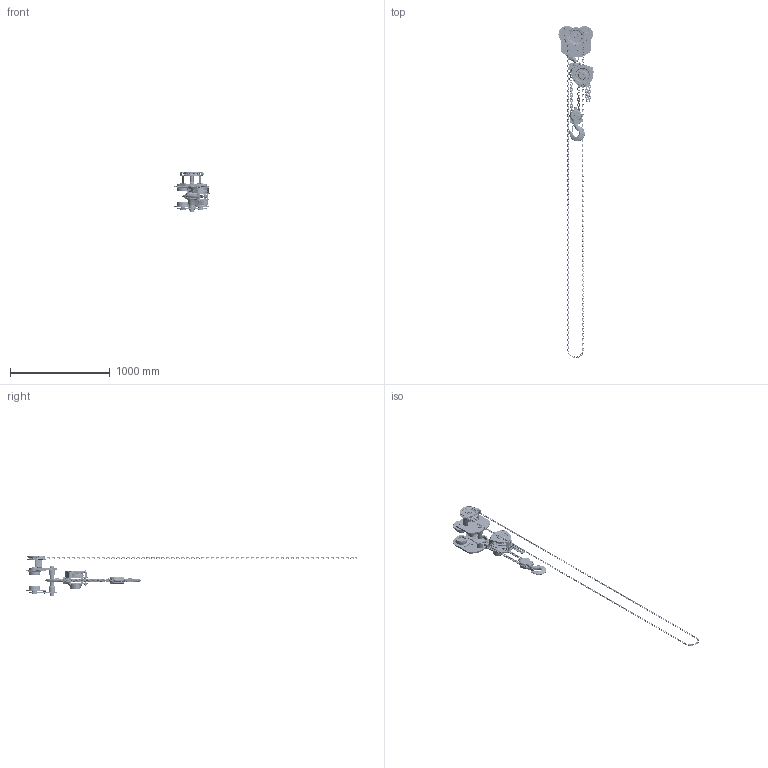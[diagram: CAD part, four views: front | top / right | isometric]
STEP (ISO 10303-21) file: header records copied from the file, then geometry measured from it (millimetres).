
FILE_DESCRIPTION (( 'STEP AP214' ), '1' );
FILE_NAME ('CB050 on GTF050.STEP', '2026-08-17T19:30:07', ( '' ), ( '' ), 'SwSTEP 2.0', 'SolidWorks 2026', '' );
FILE_SCHEMA (( 'AUTOMOTIVE_DESIGN' ));
Length unit declared in the file: millimetre
Products named in the file (80): J1NL00210120; CB050 on GTF050; C3BA025-91042; HCCF005; M3041075; C3BA025-91711; T3G5111050; 9009412_9009412; GTF2050_7" FLANGE; M3B101025; T3P153050; 9093424_9093424; 9012515_9012515; M3163025; 6307Z Bearing; CB050 Chain; C3BA050-10013; C1FA030-90712; T3GB0109125; MS164030; 9093433_9093433; 9012711_9012711; C3BA050-90312; 9009415_9009415; C3BA025-91561; C2BA200-90741_C2BA200-90741; 9091296_9091296; C2BA020-90743_C2BA020-90743; LCC3025; C2BA050-90723_C2BA050-90723; C3BA050-90611; C3BA025-91031; C3BA025-91201; C3BA050-90531; C3BA025-91022; 9009423_9009423; M6SE050S9103; M3021A050; C3BA050-90112; C3BA025-91012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
Assembly tree (457 placements, depth 6):
  CB050 on GTF050
    GTF2050_7" FLANGE
      T3G5111050
        T3GA0509111
        M6SE050S9103  x2
        T3GA0509113
        T3GB0109122
        T3GB0109125  x2
        T3GA0509117
        J1RA31080030  x2
        J1RD31080030  x4
      T3P110050
        T3GA0509112
        M6SE050S9103  x2
        T3GA0509117
        T3GA0509113
        J1RA31080030  x2
      T3G123010
      T3P1102050  x2
        T3GA0509102
        J1SR000-00080_J1SR000-00080
        6307Z Bearing
      MS104050  x4
      9047135_9047135  x4
      T3G1101050  x2
        T3GA0509101
        6307Z Bearing
        J1SR000-00080_J1SR000-00080
      T3P153050
      J1NL00210120
      9009423_9009423  x2
      HCCF005 for GT2030
        HCCF005  x274
      T3G121020
      T3G259010_T3G259010
      T6G115050
      MS164030
      9009432_9009432
      9012515_9012515
    CB050 - Hook Mount_Hook
      C3BA050-10013
        C3BA050-90012
        C3BA050-90112
        C3BA050-90122
        C1FA030-90712
        C2BA020-90743_C2BA020-90743
        C2BA050-90723_C2BA050-90723
        J1RA11-100036  x2
      CB050_FOR SHB
        M3171025
          C3BA025-91711
          C3BA005-91731  x2
        M3103025
          C3BA025-91031
          C3BA025-91201  x2
        M3B101025
          C3BA025-61012
            C3BA025-91012
            C3BA025-91722
          C3BA025-91042  x3
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Bounding box: 351.48 x 3332.12 x 401.92 mm (x, y, z)
Volume: 9083077.9 mm3; surface area: 2644789.5 mm2
Topology: 446 solids, 462 shells, 12286 faces, 29367 edges, 17569 vertices
Faces by surface type: cylinder 3610, torus 2902, plane 2858, bspline 1725, cone 1149, sphere 42
Entity records: 258924 total; most frequent: CARTESIAN_POINT 122882, ORIENTED_EDGE 28588, DIRECTION 25703, EDGE_CURVE 14296, AXIS2_PLACEMENT_3D 10725, VERTEX_POINT 8881, EDGE_LOOP 6071, CIRCLE 5748
